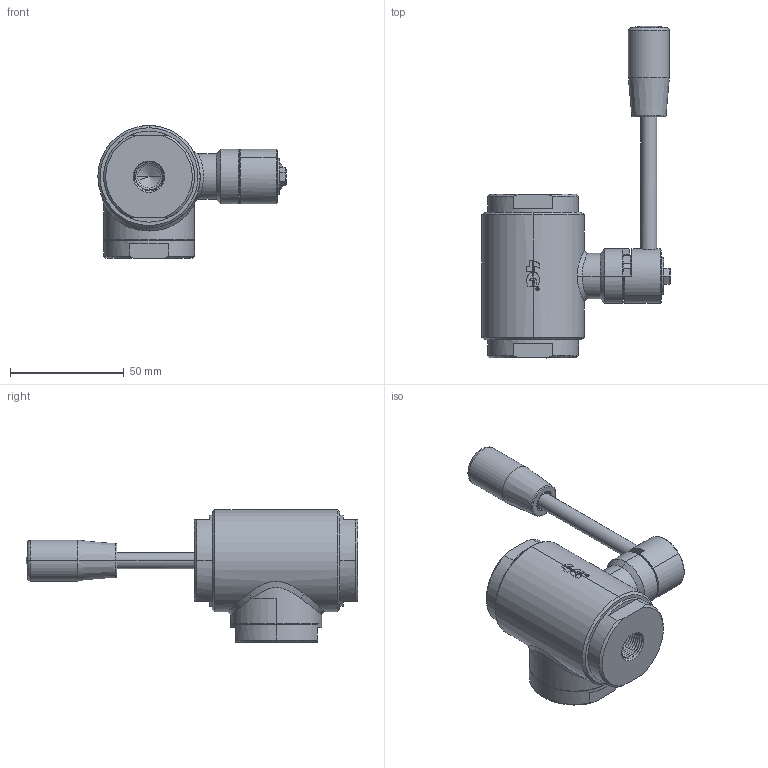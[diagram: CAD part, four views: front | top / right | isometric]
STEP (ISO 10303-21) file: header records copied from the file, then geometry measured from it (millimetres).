
FILE_DESCRIPTION((''),'2;1');
FILE_NAME('31010160410_SW0001','2025-04-11T08:15:14',('tecnico2'),('CDM Tecnoconsulting'),'CREO PARAMETRIC BY PTC INC, 2024063','CREO PARAMETRIC BY PTC INC, 2024063','');
FILE_SCHEMA(('CONFIG_CONTROL_DESIGN','SHAPE_APPEARANCE_LAYERS_GROUPS'));
Products named in the file (1): 31010160410_SW0001
Bounding box: 82.8 x 146 x 58.5 mm (x, y, z)
Volume: 132059.1 mm3; surface area: 42278.5 mm2
Topology: 1 solids, 4 shells, 851 faces, 2251 edges, 1416 vertices
Faces by surface type: plane 285, cylinder 220, cone 140, extrusion 102, bspline 69, torus 30, sphere 5
Entity records: 65606 total; most frequent: CARTESIAN_POINT 35754, ORIENTED_EDGE 4454, DIRECTION 3601, PRESENTATION_STYLE_ASSIGNMENT 2739, STYLED_ITEM 2331, CURVE_STYLE 2329, EDGE_CURVE 2227, VERTEX_POINT 1416
